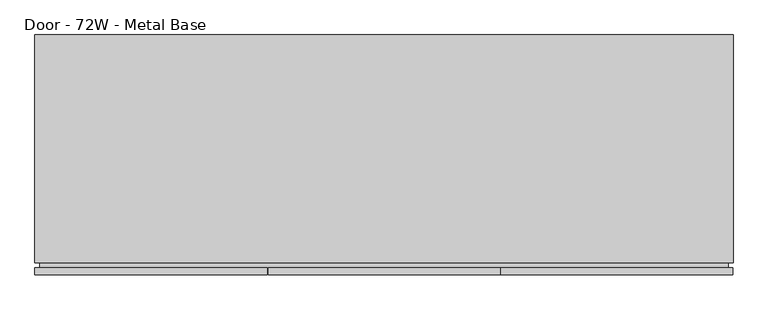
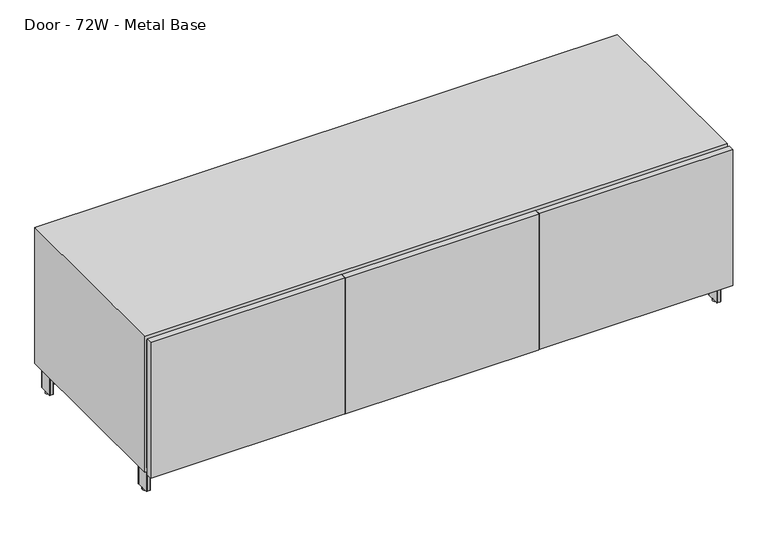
"""IFC4 building model written with IfcOpenShell, lengths in millimetres: furniture geometry, Steelcase Coalesse - Exponents - Storage - Credenza - 21H : Door - 72W - Metal Base."""

from ifc_helpers import new_model, si_unit, point, frame, frame_2d, origin, origin_with_axes, place, context, project, spatial, polyline, circle_curve, trimmed, segment, composite_curve, outline, extrude, faceted_brep, source, transform, mapped, element, save


def door_72w_metal_base_5e867a5f(model_context):
    return source(origin(), model_context, "Body", "SolidModel", [
        faceted_brep([(6.35, 31.75, 520.7), (6.35, 31.75, 95.25), (6.35, 622.3, 95.25), (6.35, 622.3, 520.7), (1822.45, 622.3, 95.25), (1822.45, 622.3, 520.7), (1822.45, 31.75, 95.25), (1822.45, 31.75, 520.7), (0.0, 31.75, 82.55), (1828.8, 31.75, 82.55), (1828.8, 31.75, 533.4), (0.0, 31.75, 533.4), (1828.8, 628.65, 82.55), (1828.8, 628.65, 533.4), (0.0, 628.65, 82.55), (0.0, 628.65, 533.4)], [[[0, 1, 2, 3]], [[3, 2, 4, 5]], [[5, 4, 6, 7]], [[8, 9, 10, 11], [7, 6, 1, 0]], [[10, 9, 12, 13]], [[13, 12, 14, 15]], [[15, 14, 8, 11]], [[7, 0, 3, 5]], [[10, 13, 15, 11]], [[1, 6, 4, 2]], [[12, 9, 8, 14]]]),
        extrude(outline(composite_curve([segment(polyline([(1805.1506426, 615.95), (1814.322, 615.95)]), True, "CONTINUOUS"), segment(trimmed(circle_curve(frame_2d((1814.322, 614.172)), 1.778), [point((1814.322, 615.95))], [point((1816.1, 614.172))], False, "CARTESIAN"), True, "CONTINUOUS"), segment(polyline([(1816.1, 614.172), (1816.1, 572.9986)]), True, "CONTINUOUS"), segment(trimmed(circle_curve(frame_2d((1814.322, 572.9986)), 1.778), [point((1816.1, 572.9986))], [point((1814.322, 571.2206))], False, "CARTESIAN"), True, "CONTINUOUS"), segment(polyline([(1814.322, 571.2206), (1805.1948916, 571.2206)]), True, "CONTINUOUS"), segment(trimmed(circle_curve(frame_2d((1805.1948916, 573.0154916)), 1.7948916), [point((1805.1948916, 571.2206))], [point((1803.4, 573.0154916))], False, "CARTESIAN"), True, "CONTINUOUS"), segment(polyline([(1803.4, 573.0154916), (1803.4, 614.1993574)]), True, "CONTINUOUS"), segment(trimmed(circle_curve(frame_2d((1805.1506426, 614.1993574)), 1.7506426), [point((1803.4, 614.1993574))], [point((1805.1506426, 615.95))], False, "CARTESIAN"), True, "CONTINUOUS")], self_intersect=False)), frame((0.0, 0.0, 6.35), z_axis=(0.0, 0.0, 1.0), x_axis=(1.0, 0.0, 0.0)), (0.0, 0.0, 1.0), 73.4568),
        extrude(outline(composite_curve([segment(polyline([(1805.1506426, 88.9), (1814.322, 88.9)]), True, "CONTINUOUS"), segment(trimmed(circle_curve(frame_2d((1814.322, 87.122)), 1.778), [point((1814.322, 88.9))], [point((1816.1, 87.122))], False, "CARTESIAN"), True, "CONTINUOUS"), segment(polyline([(1816.1, 87.122), (1816.1, 45.9486)]), True, "CONTINUOUS"), segment(trimmed(circle_curve(frame_2d((1814.322, 45.9486)), 1.778), [point((1816.1, 45.9486))], [point((1814.322, 44.1706))], False, "CARTESIAN"), True, "CONTINUOUS"), segment(polyline([(1814.322, 44.1706), (1805.1948916, 44.1706)]), True, "CONTINUOUS"), segment(trimmed(circle_curve(frame_2d((1805.1948916, 45.9654916)), 1.7948916), [point((1805.1948916, 44.1706))], [point((1803.4, 45.9654916))], False, "CARTESIAN"), True, "CONTINUOUS"), segment(polyline([(1803.4, 45.9654916), (1803.4, 87.1493574)]), True, "CONTINUOUS"), segment(trimmed(circle_curve(frame_2d((1805.1506426, 87.1493574)), 1.7506426), [point((1803.4, 87.1493574))], [point((1805.1506426, 88.9))], False, "CARTESIAN"), True, "CONTINUOUS")], self_intersect=False)), frame((0.0, 0.0, 6.35), z_axis=(0.0, 0.0, 1.0), x_axis=(1.0, 0.0, 0.0)), (0.0, 0.0, 1.0), 73.4568),
        extrude(outline(composite_curve([segment(trimmed(circle_curve(frame_2d((1809.75, 593.5667033)), 6.35), [point((1809.75, 599.9167033))], [point((1809.75, 587.2167033))], False, "CARTESIAN"), True, "CONTINUOUS"), segment(trimmed(circle_curve(frame_2d((1809.75, 593.5667033)), 6.35), [point((1809.75, 587.2167033))], [point((1809.75, 599.9167033))], False, "CARTESIAN"), True, "CONTINUOUS")], self_intersect=False)), origin_with_axes(), (0.0, 0.0, 1.0), 6.35),
        extrude(outline(composite_curve([segment(trimmed(circle_curve(frame_2d((1809.75, 66.7867854)), 6.35), [point((1809.75, 73.1367854))], [point((1809.75, 60.4367854))], False, "CARTESIAN"), True, "CONTINUOUS"), segment(trimmed(circle_curve(frame_2d((1809.75, 66.7867854)), 6.35), [point((1809.75, 60.4367854))], [point((1809.75, 73.1367854))], False, "CARTESIAN"), True, "CONTINUOUS")], self_intersect=False)), origin_with_axes(), (0.0, 0.0, 1.0), 6.35),
        extrude(outline(polyline([(1270.0, 379.0696809), (1270.0, 277.4696809), (1168.4, 277.4696809), (1168.4, 379.0696809), (1270.0, 379.0696809)])), frame((0.0, 0.0, 79.8068), z_axis=(0.0, 0.0, 1.0), x_axis=(1.0, 0.0, 0.0)), (0.0, 0.0, 1.0), 2.7432),
        extrude(outline(polyline([(520.7, 1816.1), (520.7, 12.7), (95.25, 12.7), (95.25, 1816.1), (520.7, 1816.1)]), holes=[polyline([(514.35, 1809.75), (101.6, 1809.75), (101.6, 19.05), (514.35, 19.05), (514.35, 1809.75)])]), frame((0.0, 19.05, 0.0), z_axis=(0.0, 1.0, 0.0), x_axis=(0.0, 0.0, 1.0)), (0.0, 0.0, 1.0), 31.75),
        extrude(outline(composite_curve([segment(polyline([(1211.4256426, 349.25), (1226.947, 349.25)]), True, "CONTINUOUS"), segment(trimmed(circle_curve(frame_2d((1226.947, 347.472)), 1.778), [point((1226.947, 349.25))], [point((1228.725, 347.472))], False, "CARTESIAN"), True, "CONTINUOUS"), segment(polyline([(1228.725, 347.472), (1228.725, 312.928)]), True, "CONTINUOUS"), segment(trimmed(circle_curve(frame_2d((1226.947, 312.928)), 1.778), [point((1228.725, 312.928))], [point((1226.947, 311.15))], False, "CARTESIAN"), True, "CONTINUOUS"), segment(polyline([(1226.947, 311.15), (1211.4698916, 311.15)]), True, "CONTINUOUS"), segment(trimmed(circle_curve(frame_2d((1211.4698916, 312.9448916)), 1.7948916), [point((1211.4698916, 311.15))], [point((1209.675, 312.9448916))], False, "CARTESIAN"), True, "CONTINUOUS"), segment(polyline([(1209.675, 312.9448916), (1209.675, 347.4993574)]), True, "CONTINUOUS"), segment(trimmed(circle_curve(frame_2d((1211.4256426, 347.4993574)), 1.7506426), [point((1209.675, 347.4993574))], [point((1211.4256426, 349.25))], False, "CARTESIAN"), True, "CONTINUOUS")], self_intersect=False)), frame((0.0, 0.0, 6.35), z_axis=(0.0, 0.0, 1.0), x_axis=(1.0, 0.0, 0.0)), (0.0, 0.0, 1.0), 73.4568),
        extrude(outline(polyline([(1220.4800308, 345.280854), (1803.4, 598.591626), (1803.4, 577.8206777), (1233.5741031, 330.2), (1803.4, 82.5793223), (1803.4, 61.808374), (1220.777267, 314.9899805), (1227.2101738, 329.7934165), (1220.4800308, 345.280854)])), frame((0.0, 0.0, 34.925), z_axis=(0.0, 0.0, 1.0), x_axis=(1.0, 0.0, 0.0)), (0.0, 0.0, 1.0), 44.8818),
        extrude(outline(polyline([(1822.45, 520.7), (1720.85, 520.7), (1720.85, 622.3), (1822.45, 622.3), (1822.45, 520.7)])), frame((0.0, 0.0, 79.8068), z_axis=(0.0, 0.0, 1.0), x_axis=(1.0, 0.0, 0.0)), (0.0, 0.0, 1.0), 2.7432),
        extrude(outline(polyline([(1822.45, 139.7), (1822.45, 38.1), (1720.85, 38.1), (1720.85, 139.7), (1822.45, 139.7)])), frame((0.0, 0.0, 79.8068), z_axis=(0.0, 0.0, 1.0), x_axis=(1.0, 0.0, 0.0)), (0.0, 0.0, 1.0), 2.7432),
        extrude(outline(composite_curve([segment(trimmed(circle_curve(frame_2d((1219.0250692, 330.5590189)), 6.35), [point((1219.0250692, 336.9090189))], [point((1219.0250692, 324.2090189))], False, "CARTESIAN"), True, "CONTINUOUS"), segment(trimmed(circle_curve(frame_2d((1219.0250692, 330.5590189)), 6.35), [point((1219.0250692, 324.2090189))], [point((1219.0250692, 336.9090189))], False, "CARTESIAN"), True, "CONTINUOUS")], self_intersect=False)), origin_with_axes(), (0.0, 0.0, 1.0), 6.35),
        extrude(outline(polyline([(1827.8348, 19.05), (1827.8348, 0.0), (1220.0128, 0.0), (1220.0128, 19.05), (1827.8348, 19.05)])), frame((0.0, 0.0, 82.55), z_axis=(0.0, 0.0, 1.0), x_axis=(1.0, 0.0, 0.0)), (0.0, 0.0, 1.0), 450.85),
        extrude(outline(composite_curve([segment(trimmed(circle_curve(frame_2d((23.6493574, 614.1993574)), 1.7506426), [point((23.6493574, 615.95))], [point((25.4, 614.1993574))], False, "CARTESIAN"), True, "CONTINUOUS"), segment(polyline([(25.4, 614.1993574), (25.4, 573.0154916)]), True, "CONTINUOUS"), segment(trimmed(circle_curve(frame_2d((23.6051084, 573.0154916)), 1.7948916), [point((25.4, 573.0154916))], [point((23.6051084, 571.2206))], False, "CARTESIAN"), True, "CONTINUOUS"), segment(polyline([(23.6051084, 571.2206), (14.478, 571.2206)]), True, "CONTINUOUS"), segment(trimmed(circle_curve(frame_2d((14.478, 572.9986)), 1.778), [point((14.478, 571.2206))], [point((12.7, 572.9986))], False, "CARTESIAN"), True, "CONTINUOUS"), segment(polyline([(12.7, 572.9986), (12.7, 614.172)]), True, "CONTINUOUS"), segment(trimmed(circle_curve(frame_2d((14.478, 614.172)), 1.778), [point((12.7, 614.172))], [point((14.478, 615.95))], False, "CARTESIAN"), True, "CONTINUOUS"), segment(polyline([(14.478, 615.95), (23.6493574, 615.95)]), True, "CONTINUOUS")], self_intersect=False)), frame((0.0, 0.0, 6.35), z_axis=(0.0, 0.0, 1.0), x_axis=(1.0, 0.0, 0.0)), (0.0, 0.0, 1.0), 73.4568),
        extrude(outline(composite_curve([segment(trimmed(circle_curve(frame_2d((23.6493574, 87.1493574)), 1.7506426), [point((23.6493574, 88.9))], [point((25.4, 87.1493574))], False, "CARTESIAN"), True, "CONTINUOUS"), segment(polyline([(25.4, 87.1493574), (25.4, 45.9654916)]), True, "CONTINUOUS"), segment(trimmed(circle_curve(frame_2d((23.6051084, 45.9654916)), 1.7948916), [point((25.4, 45.9654916))], [point((23.6051084, 44.1706))], False, "CARTESIAN"), True, "CONTINUOUS"), segment(polyline([(23.6051084, 44.1706), (14.478, 44.1706)]), True, "CONTINUOUS"), segment(trimmed(circle_curve(frame_2d((14.478, 45.9486)), 1.778), [point((14.478, 44.1706))], [point((12.7, 45.9486))], False, "CARTESIAN"), True, "CONTINUOUS"), segment(polyline([(12.7, 45.9486), (12.7, 87.122)]), True, "CONTINUOUS"), segment(trimmed(circle_curve(frame_2d((14.478, 87.122)), 1.778), [point((12.7, 87.122))], [point((14.478, 88.9))], False, "CARTESIAN"), True, "CONTINUOUS"), segment(polyline([(14.478, 88.9), (23.6493574, 88.9)]), True, "CONTINUOUS")], self_intersect=False)), frame((0.0, 0.0, 6.35), z_axis=(0.0, 0.0, 1.0), x_axis=(1.0, 0.0, 0.0)), (0.0, 0.0, 1.0), 73.4568),
        extrude(outline(composite_curve([segment(trimmed(circle_curve(frame_2d((617.3743574, 347.4993574)), 1.7506426), [point((617.3743574, 349.25))], [point((619.125, 347.4993574))], False, "CARTESIAN"), True, "CONTINUOUS"), segment(polyline([(619.125, 347.4993574), (619.125, 312.9448916)]), True, "CONTINUOUS"), segment(trimmed(circle_curve(frame_2d((617.3301084, 312.9448916)), 1.7948916), [point((619.125, 312.9448916))], [point((617.3301084, 311.15))], False, "CARTESIAN"), True, "CONTINUOUS"), segment(polyline([(617.3301084, 311.15), (601.853, 311.15)]), True, "CONTINUOUS"), segment(trimmed(circle_curve(frame_2d((601.853, 312.928)), 1.778), [point((601.853, 311.15))], [point((600.075, 312.928))], False, "CARTESIAN"), True, "CONTINUOUS"), segment(polyline([(600.075, 312.928), (600.075, 347.472)]), True, "CONTINUOUS"), segment(trimmed(circle_curve(frame_2d((601.853, 347.472)), 1.778), [point((600.075, 347.472))], [point((601.853, 349.25))], False, "CARTESIAN"), True, "CONTINUOUS"), segment(polyline([(601.853, 349.25), (617.3743574, 349.25)]), True, "CONTINUOUS")], self_intersect=False)), frame((0.0, 0.0, 6.35), z_axis=(0.0, 0.0, 1.0), x_axis=(1.0, 0.0, 0.0)), (0.0, 0.0, 1.0), 73.4568),
        extrude(outline(polyline([(608.3199692, 345.280854), (601.5898262, 329.7934165), (608.022733, 314.9899805), (25.4, 61.808374), (25.4, 82.5793223), (595.2258969, 330.2), (25.4, 577.8206777), (25.4, 598.591626), (608.3199692, 345.280854)])), frame((0.0, 0.0, 34.925), z_axis=(0.0, 0.0, 1.0), x_axis=(1.0, 0.0, 0.0)), (0.0, 0.0, 1.0), 44.8818),
        extrude(outline(polyline([(1218.4126, 19.05), (1218.4126, 0.0), (610.5652, 0.0), (610.5652, 19.05), (1218.4126, 19.05)])), frame((0.0, 0.0, 82.55), z_axis=(0.0, 0.0, 1.0), x_axis=(1.0, 0.0, 0.0)), (0.0, 0.0, 1.0), 450.85),
        extrude(outline(polyline([(6.35, 520.7), (6.35, 622.3), (107.95, 622.3), (107.95, 520.7), (6.35, 520.7)])), frame((0.0, 0.0, 79.8068), z_axis=(0.0, 0.0, 1.0), x_axis=(1.0, 0.0, 0.0)), (0.0, 0.0, 1.0), 2.7432),
        extrude(outline(polyline([(6.35, 139.7), (107.95, 139.7), (107.95, 38.1), (6.35, 38.1), (6.35, 139.7)])), frame((0.0, 0.0, 79.8068), z_axis=(0.0, 0.0, 1.0), x_axis=(1.0, 0.0, 0.0)), (0.0, 0.0, 1.0), 2.7432),
        extrude(outline(polyline([(558.8, 379.0696809), (660.4, 379.0696809), (660.4, 277.4696809), (558.8, 277.4696809), (558.8, 379.0696809)])), frame((0.0, 0.0, 79.8068), z_axis=(0.0, 0.0, 1.0), x_axis=(1.0, 0.0, 0.0)), (0.0, 0.0, 1.0), 2.7432),
        extrude(outline(polyline([(608.965, 19.05), (608.965, 0.0), (0.0, 0.0), (0.0, 19.05), (608.965, 19.05)])), frame((0.0, 0.0, 82.55), z_axis=(0.0, 0.0, 1.0), x_axis=(1.0, 0.0, 0.0)), (0.0, 0.0, 1.0), 450.85),
        extrude(outline(composite_curve([segment(trimmed(circle_curve(frame_2d((19.05, 593.5667033)), 6.35), [point((12.7, 593.5667033))], [point((25.4, 593.5667033))], False, "CARTESIAN"), True, "CONTINUOUS"), segment(trimmed(circle_curve(frame_2d((19.05, 593.5667033)), 6.35), [point((25.4, 593.5667033))], [point((12.7, 593.5667033))], False, "CARTESIAN"), True, "CONTINUOUS")], self_intersect=False)), origin_with_axes(), (0.0, 0.0, 1.0), 6.35),
        extrude(outline(composite_curve([segment(trimmed(circle_curve(frame_2d((19.05, 66.7867854)), 6.35), [point((12.7, 66.7867854))], [point((25.4, 66.7867854))], False, "CARTESIAN"), True, "CONTINUOUS"), segment(trimmed(circle_curve(frame_2d((19.05, 66.7867854)), 6.35), [point((25.4, 66.7867854))], [point((12.7, 66.7867854))], False, "CARTESIAN"), True, "CONTINUOUS")], self_intersect=False)), origin_with_axes(), (0.0, 0.0, 1.0), 6.35),
        extrude(outline(composite_curve([segment(trimmed(circle_curve(frame_2d((609.7749308, 330.5590189)), 6.35), [point((603.4249308, 330.5590189))], [point((616.1249308, 330.5590189))], False, "CARTESIAN"), True, "CONTINUOUS"), segment(trimmed(circle_curve(frame_2d((609.7749308, 330.5590189)), 6.35), [point((616.1249308, 330.5590189))], [point((603.4249308, 330.5590189))], False, "CARTESIAN"), True, "CONTINUOUS")], self_intersect=False)), origin_with_axes(), (0.0, 0.0, 1.0), 6.35),
        extrude(outline(polyline([(0.0, -19.05), (0.0, 0.0), (31.75, 0.0), (31.75, -19.05), (0.0, -19.05)])), frame((1209.675, 19.05, 101.6), z_axis=(3.1477043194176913e-12, 0.0, 1.0), x_axis=(0.0, 1.0, 0.0)), (0.0, 0.0, 1.0), 412.75),
        extrude(outline(polyline([(0.0, -19.05), (0.0, 0.0), (31.75, 0.0), (31.75, -19.05), (0.0, -19.05)])), frame((590.55, 19.05, 101.6), z_axis=(3.3608671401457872e-12, 0.0, 1.0), x_axis=(0.0, 1.0, 0.0)), (0.0, 0.0, 1.0), 412.75),
        extrude(outline(polyline([(1209.675, 609.6), (1228.725, 609.6), (1228.725, 50.8), (1209.675, 50.8), (1209.675, 609.6)])), frame((0.0, 0.0, 95.25), z_axis=(0.0, 0.0, 1.0), x_axis=(1.0, 0.0, 0.0)), (0.0, 0.0, 1.0), 425.45),
        extrude(outline(polyline([(1209.675, 50.8), (609.6, 50.8), (609.6, 609.6), (1209.675, 609.6), (1209.675, 50.8)])), frame((0.0, 0.0, 295.275), z_axis=(0.0, 0.0, 1.0), x_axis=(1.0, 0.0, 0.0)), (0.0, 0.0, 1.0), 19.05),
        extrude(outline(polyline([(590.55, 609.6), (609.6, 609.6), (609.6, 50.8), (590.55, 50.8), (590.55, 609.6)])), frame((0.0, 0.0, 95.25), z_axis=(0.0, 0.0, 1.0), x_axis=(1.0, 0.0, 0.0)), (0.0, 0.0, 1.0), 425.45),
    ])


if __name__ == "__main__":
    model = new_model("IFC4")
    model_context = context("Model", 3, world=origin())
    ifc_project = project(units=[si_unit("LENGTHUNIT", "METRE", prefix="MILLI")], contexts=[model_context])
    site = spatial("IfcSite", under=ifc_project)
    building = spatial("IfcBuilding", under=site)
    placement = place(None, origin())
    door_72w_metal_base_shape = door_72w_metal_base_5e867a5f(model_context)
    element("IfcFurniture", 1, ObjectType="Steelcase Coalesse - Exponents - Storage - Credenza - 21H : Door - 72W - Metal Base", at=placement, inside=building, context=model_context, shape_type="MappedRepresentation", body=[
        mapped(door_72w_metal_base_shape, transform((0.0, 0.0, 0.0), x_axis=(1.0, 0.0, 0.0), y_axis=(0.0, 1.0, 0.0), z_axis=(0.0, 0.0, 1.0))),
    ])
    save(model, "model.ifc")
